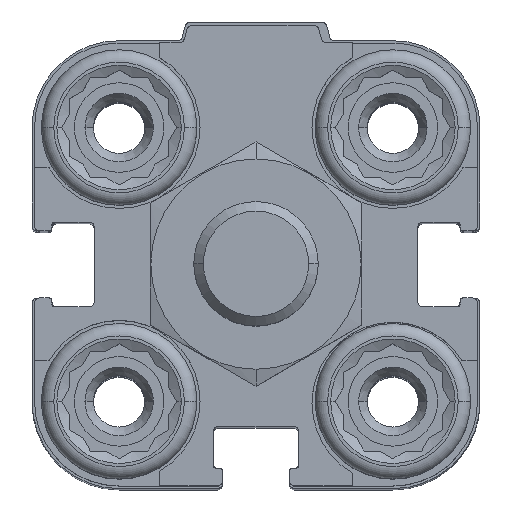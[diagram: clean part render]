
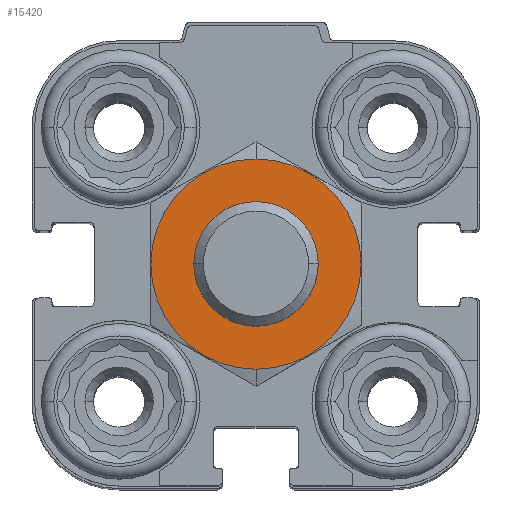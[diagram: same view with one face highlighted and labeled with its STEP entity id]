
A CAD part, top view. The second image highlights one B-rep face of the part: STEP entity #15420.
In plain terms, the highlighted planar face has unit normal (0, 0, 1).
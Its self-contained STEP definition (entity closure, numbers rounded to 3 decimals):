
#641 = DIRECTION ( 'NONE',  ( 0., -1., 0. ) ) ;
#1580 = CARTESIAN_POINT ( 'NONE',  ( 0., 0., 13.5 ) ) ;
#1585 = CARTESIAN_POINT ( 'NONE',  ( 0., 8.45, 13.5 ) ) ;
#1612 = EDGE_LOOP ( 'NONE', ( #17385, #12431 ) ) ;
#2058 = CIRCLE ( 'NONE', #18190, 5. ) ;
#2098 = DIRECTION ( 'NONE',  ( 0., 0., -1. ) ) ;
#2223 = DIRECTION ( 'NONE',  ( 0., -1., 0. ) ) ;
#2384 = CIRCLE ( 'NONE', #4876, 5. ) ;
#2577 = CARTESIAN_POINT ( 'NONE',  ( 0., -8.45, 13.5 ) ) ;
#2702 = EDGE_CURVE ( 'NONE', #10370, #11370, #8570, .T. ) ;
#3431 = ORIENTED_EDGE ( 'NONE', *, *, #17095, .T. ) ;
#3792 = EDGE_CURVE ( 'NONE', #17981, #17267, #2384, .T. ) ;
#3794 = CARTESIAN_POINT ( 'NONE',  ( 0., 0., 13.5 ) ) ;
#4876 = AXIS2_PLACEMENT_3D ( 'NONE', #1580, #11981, #17907 ) ;
#5491 = DIRECTION ( 'NONE',  ( 0., 0., -1. ) ) ;
#5775 = CIRCLE ( 'NONE', #11368, 8.45 ) ;
#6794 = DIRECTION ( 'NONE',  ( 0., 0., -1. ) ) ;
#7131 = CARTESIAN_POINT ( 'NONE',  ( 0., 0., 13.5 ) ) ;
#7628 = AXIS2_PLACEMENT_3D ( 'NONE', #8055, #6794, #2223 ) ;
#8055 = CARTESIAN_POINT ( 'NONE',  ( 0., 0., 13.5 ) ) ;
#8570 = CIRCLE ( 'NONE', #7628, 8.45 ) ;
#8718 = CARTESIAN_POINT ( 'NONE',  ( 0., 5., 13.5 ) ) ;
#9423 = EDGE_CURVE ( 'NONE', #11370, #10370, #5775, .T. ) ;
#9478 = PLANE ( 'NONE',  #18093 ) ;
#10370 = VERTEX_POINT ( 'NONE', #1585 ) ;
#11285 = DIRECTION ( 'NONE',  ( 0., -1., 0. ) ) ;
#11368 = AXIS2_PLACEMENT_3D ( 'NONE', #3794, #18653, #11285 ) ;
#11370 = VERTEX_POINT ( 'NONE', #2577 ) ;
#11720 = ORIENTED_EDGE ( 'NONE', *, *, #3792, .T. ) ;
#11981 = DIRECTION ( 'NONE',  ( 0., 0., -1. ) ) ;
#12398 = FACE_BOUND ( 'NONE', #18833, .T. ) ;
#12431 = ORIENTED_EDGE ( 'NONE', *, *, #2702, .F. ) ;
#15399 = CARTESIAN_POINT ( 'NONE',  ( 0., 0., 13.5 ) ) ;
#15420 = ADVANCED_FACE ( 'NONE', ( #18322, #12398 ), #9478, .F. ) ;
#16342 = CARTESIAN_POINT ( 'NONE',  ( 0., -5., 13.5 ) ) ;
#17095 = EDGE_CURVE ( 'NONE', #17267, #17981, #2058, .T. ) ;
#17267 = VERTEX_POINT ( 'NONE', #8718 ) ;
#17385 = ORIENTED_EDGE ( 'NONE', *, *, #9423, .F. ) ;
#17907 = DIRECTION ( 'NONE',  ( 0., -1., 0. ) ) ;
#17981 = VERTEX_POINT ( 'NONE', #16342 ) ;
#18093 = AXIS2_PLACEMENT_3D ( 'NONE', #15399, #2098, #641 ) ;
#18190 = AXIS2_PLACEMENT_3D ( 'NONE', #7131, #5491, #18972 ) ;
#18322 = FACE_OUTER_BOUND ( 'NONE', #1612, .T. ) ;
#18653 = DIRECTION ( 'NONE',  ( 0., 0., -1. ) ) ;
#18833 = EDGE_LOOP ( 'NONE', ( #3431, #11720 ) ) ;
#18972 = DIRECTION ( 'NONE',  ( 0., -1., 0. ) ) ;
